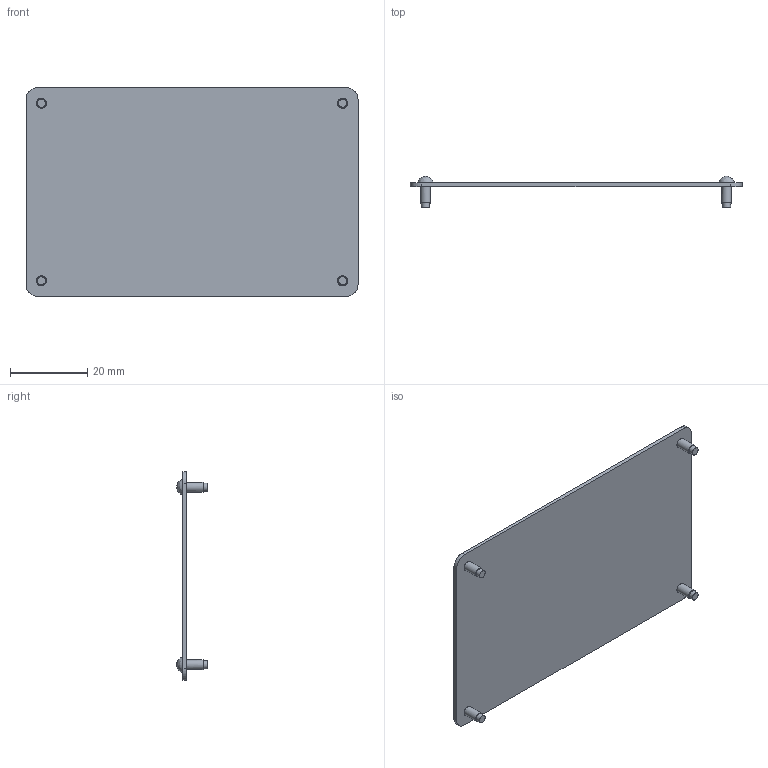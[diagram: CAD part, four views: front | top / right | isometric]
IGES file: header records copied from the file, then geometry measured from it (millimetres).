
Start section: VISI Layer Mapping Iges    VISI  0      LAYER0  1      WARNINGS
Global section: file name: G:\Produktkommunikation\Support\CD-Online-Katalog\3D Daten Produkte\E19100\STEP\E19100_5486_1_4.igs; native system: VISI 20.0; preprocessor: 2.0; author: nus; organization: Unknown; date: 20140919.095603; units: millimetre
Bounding box: 86 x 8.1 x 54 mm (x, y, z)
Surface area: 9875 mm2 (no closed solid volume)
Topology: 0 solids, 0 shells, 38 faces, 632 edges, 608 vertices
Faces by surface type: bspline 38
